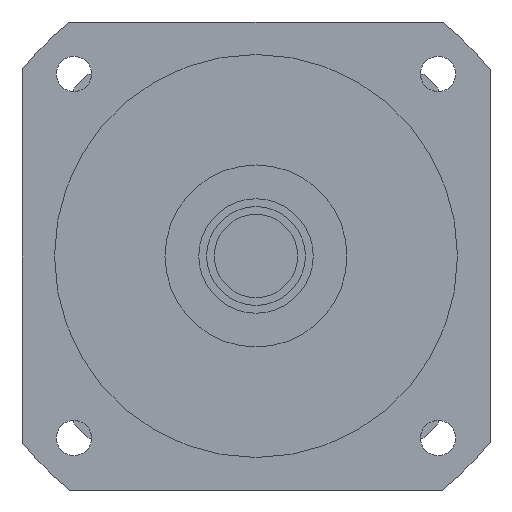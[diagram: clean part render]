
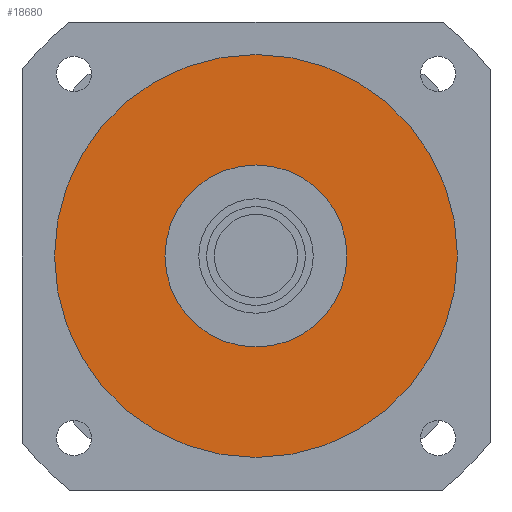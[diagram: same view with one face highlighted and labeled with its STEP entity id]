
A CAD part, left-side view. The second image highlights one B-rep face of the part: STEP entity #18680.
In plain terms, the highlighted planar face has unit normal (-1, 0, 0) as drawn and (0, 0, -1) by its records, which use the part's own axes.
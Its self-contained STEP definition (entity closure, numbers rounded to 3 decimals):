
#18100=CARTESIAN_POINT('',(77.5,0.,-84.7));
#18110=VERTEX_POINT('',#18100);
#18200=CARTESIAN_POINT('',(-77.5,0.,-84.7));
#18210=VERTEX_POINT('',#18200);
#18240=CARTESIAN_POINT('',(0.,0.,
-84.7));
#18250=DIRECTION('',(0.,0.,1.));
#18260=DIRECTION('',(0.,1.,0.));
#18270=AXIS2_PLACEMENT_3D('',#18240,#18250,#18260);
#18280=CIRCLE('',#18270,77.5);
#18290=CARTESIAN_POINT('',(0.,77.5,-84.7));
#18300=VERTEX_POINT('',#18290);
#18310=EDGE_CURVE('',#18300,#18210,#18280,.T.);
#18330=EDGE_CURVE('',#18110,#18300,#18280,.T.);
#18380=CARTESIAN_POINT('',(0.,0.,
-84.7));
#18390=DIRECTION('',(0.,0.,1.));
#18400=DIRECTION('',(-1.,0.,0.));
#18410=AXIS2_PLACEMENT_3D('',#18380,#18390,#18400);
#18420=PLANE('',#18410);
#18430=ORIENTED_EDGE('',*,*,#18310,.F.);
#18440=EDGE_CURVE('',#18210,#18110,#18280,.T.);
#18450=ORIENTED_EDGE('',*,*,#18440,.F.);
#18460=ORIENTED_EDGE('',*,*,#18330,.F.);
#18470=EDGE_LOOP('',(#18460,#18450,#18430));
#18480=FACE_OUTER_BOUND('',#18470,.T.);
#18490=CARTESIAN_POINT('',(0.,0.,
-84.7));
#18500=DIRECTION('',(0.,0.,1.));
#18510=DIRECTION('',(0.,1.,0.));
#18520=AXIS2_PLACEMENT_3D('',#18490,#18500,#18510);
#18530=CIRCLE('',#18520,35.);
#18540=CARTESIAN_POINT('',(-35.,0.,-84.7));
#18550=VERTEX_POINT('',#18540);
#18560=CARTESIAN_POINT('',(35.,0.,-84.7));
#18570=VERTEX_POINT('',#18560);
#18580=EDGE_CURVE('',#18550,#18570,#18530,.T.);
#18590=ORIENTED_EDGE('',*,*,#18580,.T.);
#18600=CARTESIAN_POINT('',(0.,35.,-84.7));
#18610=VERTEX_POINT('',#18600);
#18620=EDGE_CURVE('',#18610,#18550,#18530,.T.);
#18630=ORIENTED_EDGE('',*,*,#18620,.T.);
#18640=EDGE_CURVE('',#18570,#18610,#18530,.T.);
#18650=ORIENTED_EDGE('',*,*,#18640,.T.);
#18660=EDGE_LOOP('',(#18650,#18630,#18590));
#18670=FACE_BOUND('',#18660,.T.);
#18680=ADVANCED_FACE('',(#18480,#18670),#18420,.F.);
